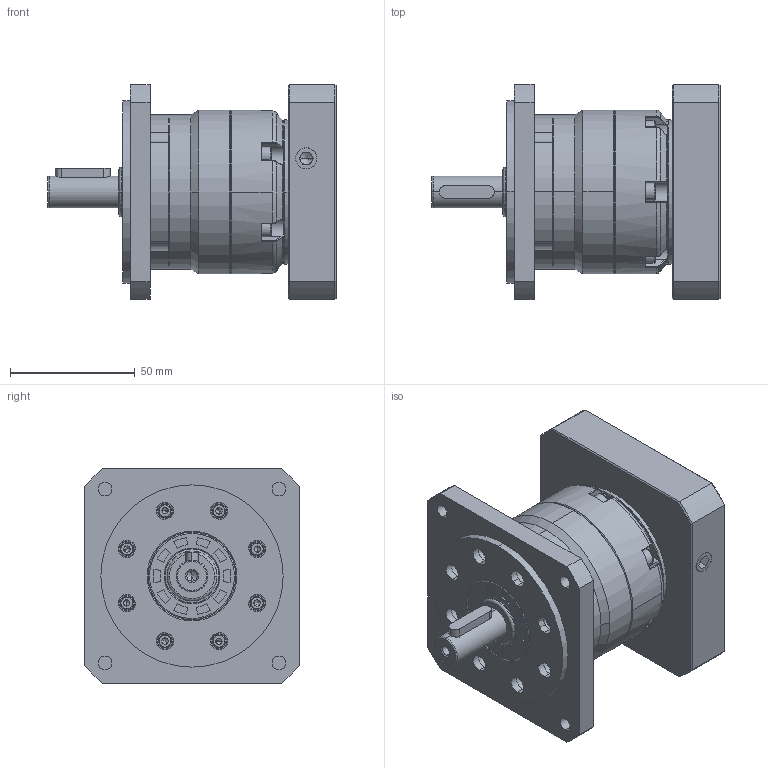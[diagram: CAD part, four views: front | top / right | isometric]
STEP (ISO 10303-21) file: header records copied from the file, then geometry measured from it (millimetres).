
FILE_DESCRIPTION (( 'STEP AP203' ), '1' );
FILE_NAME ('FGA060D-L1-14-73-98.5-M5-定制.STEP', '2021-09-25T10:21:10', ( '微软用户' ), ( '微软中国' ), 'SwSTEP 2.0', 'SolidWorks 2016', '' );
FILE_SCHEMA (( 'CONFIG_CONTROL_DESIGN' ));
Length unit declared in the file: millimetre
Products named in the file (14): 输入太阳齿轮060D-14_2; 3-输入端壳体FAD064D_2; 输入法兰FAB060D-73X21XM5(98.5); FAB060D怀堤俴陎殤12.7(瑩5)-28.5-M5; A倰す瑩5x22; hexagon socket head cap screws gb_GB_FASTENER_SCREWS_HSHCS M4X16-N_2; 蚐猾20355_1; hex socket set screws with cone point gb_GB_FASTENER_SCREWS_HSCP M10X10-N_3; FGA060D-L1-14-73-98.5-M5-隅秶; hexagon socket head cap screws gb_GB_FASTENER_SCREWS_HSHCS M4X12-N; FG060齿圈_1; 8-怀堤傷褲极FGA060; 坶踡遠18-37-12(1)_1; hexagon socket head cap screws gb_GB_FASTENER_SCREWS_HSHCS M3X12-N
Assembly tree (28 placements, depth 2):
  FGA060D-L1-14-73-98.5-M5-隅秶
    输入太阳齿轮060D-14_2
    坶踡遠18-37-12(1)_1
    3-输入端壳体FAD064D_2
    FG060齿圈_1
    蚐猾20355_1
    hexagon socket head cap screws gb_GB_FASTENER_SCREWS_HSHCS M4X16-N_2  x4
    hex socket set screws with cone point gb_GB_FASTENER_SCREWS_HSCP M10X10-N_3
    hexagon socket head cap screws gb_GB_FASTENER_SCREWS_HSHCS M3X12-N  x8
    hexagon socket head cap screws gb_GB_FASTENER_SCREWS_HSHCS M4X12-N  x6
    A倰す瑩5x22
    8-怀堤傷褲极FGA060
    输入法兰FAB060D-73X21XM5(98.5)
    FAB060D怀堤俴陎殤12.7(瑩5)-28.5-M5
Bounding box: 115.5 x 86 x 86 mm (x, y, z)
Volume: 347039.3 mm3; surface area: 95315.3 mm2
Topology: 29 solids, 30 shells, 1068 faces, 2506 edges, 1536 vertices
Faces by surface type: plane 448, cylinder 345, cone 165, bspline 93, torus 17
Entity records: 24004 total; most frequent: CARTESIAN_POINT 5838, DIRECTION 3573, ORIENTED_EDGE 3292, EDGE_CURVE 1646, AXIS2_PLACEMENT_3D 1445, VERTEX_POINT 1041, EDGE_LOOP 807, CIRCLE 784
